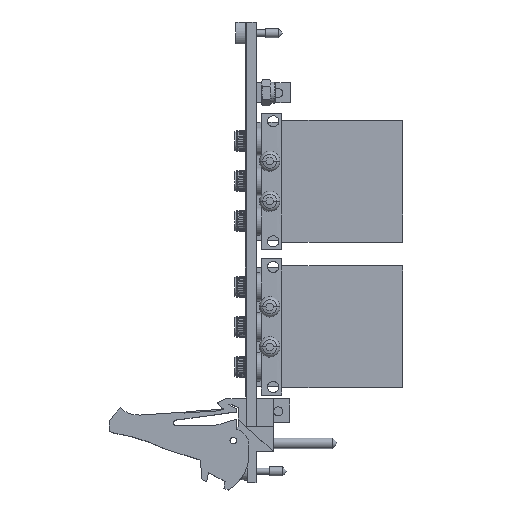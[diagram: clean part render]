
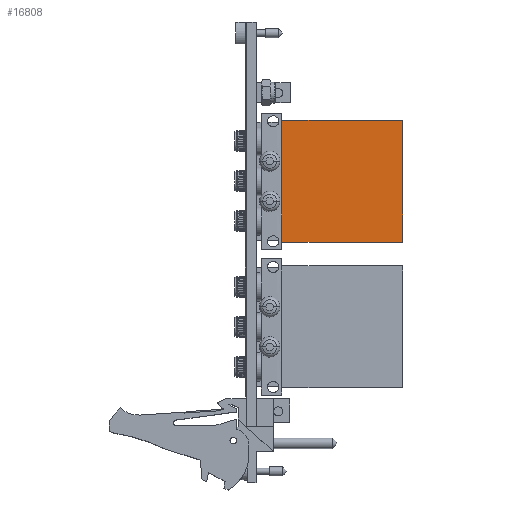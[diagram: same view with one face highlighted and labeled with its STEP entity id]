
A CAD part, top view. The second image highlights one B-rep face of the part: STEP entity #16808.
In plain terms, the highlighted planar face has unit normal (0, 0, 1).
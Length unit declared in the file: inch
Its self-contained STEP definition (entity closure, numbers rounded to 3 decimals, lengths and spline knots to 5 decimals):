
#3178=DIRECTION('',(1.,0.,-0.001));
#3179=VECTOR('',#3178,1.329);
#3180=CARTESIAN_POINT('',(0.18096,-1.86042,
0.60407));
#3181=LINE('',#3180,#3179);
#3194=DIRECTION('',(0.,1.,0.));
#3195=VECTOR('',#3194,1.33858);
#3196=CARTESIAN_POINT('',(1.50996,-1.86042,
0.6021));
#3197=LINE('',#3196,#3195);
#3202=DIRECTION('',(0.,1.,0.));
#3203=VECTOR('',#3202,1.33858);
#3204=CARTESIAN_POINT('',(0.18096,-1.86042,
0.60407));
#3205=LINE('',#3204,#3203);
#3210=DIRECTION('',(1.,0.,-0.001));
#3211=VECTOR('',#3210,1.329);
#3212=CARTESIAN_POINT('',(0.18096,-0.52184,
0.60407));
#3213=LINE('',#3212,#3211);
#11035=CARTESIAN_POINT('',(1.50996,-1.86042,
0.6021));
#11036=CARTESIAN_POINT('',(1.50996,-0.52184,
0.6021));
#11037=VERTEX_POINT('',#11035);
#11038=VERTEX_POINT('',#11036);
#11039=CARTESIAN_POINT('',(0.18096,-1.86042,
0.60407));
#11040=VERTEX_POINT('',#11039);
#11041=CARTESIAN_POINT('',(0.18096,-0.52184,
0.60407));
#11042=VERTEX_POINT('',#11041);
#16796=CARTESIAN_POINT('',(0.18096,-0.52184,
0.6021));
#16797=DIRECTION('',(0.,0.,1.));
#16798=DIRECTION('',(0.,-1.,0.));
#16799=AXIS2_PLACEMENT_3D('',#16796,#16797,#16798);
#16800=PLANE('',#16799);
#16801=ORIENTED_EDGE('',*,*,#16789,.F.);
#16802=ORIENTED_EDGE('',*,*,#16761,.F.);
#16803=ORIENTED_EDGE('',*,*,#16620,.T.);
#16805=ORIENTED_EDGE('',*,*,#16804,.T.);
#16806=EDGE_LOOP('',(#16801,#16802,#16803,#16805));
#16807=FACE_OUTER_BOUND('',#16806,.F.);
#16808=ADVANCED_FACE('',(#16807),#16800,.T.);
#16620=EDGE_CURVE('',#11040,#11042,#3205,.T.);
#16761=EDGE_CURVE('',#11040,#11037,#3181,.T.);
#16789=EDGE_CURVE('',#11037,#11038,#3197,.T.);
#16804=EDGE_CURVE('',#11042,#11038,#3213,.T.);
